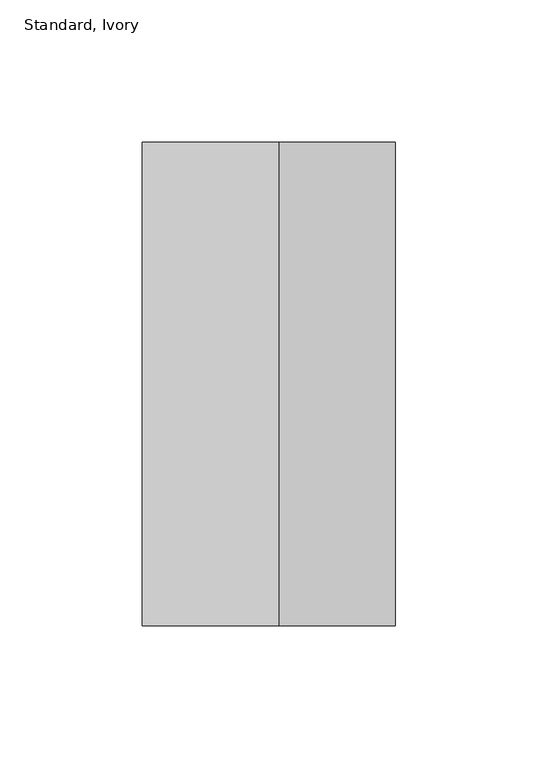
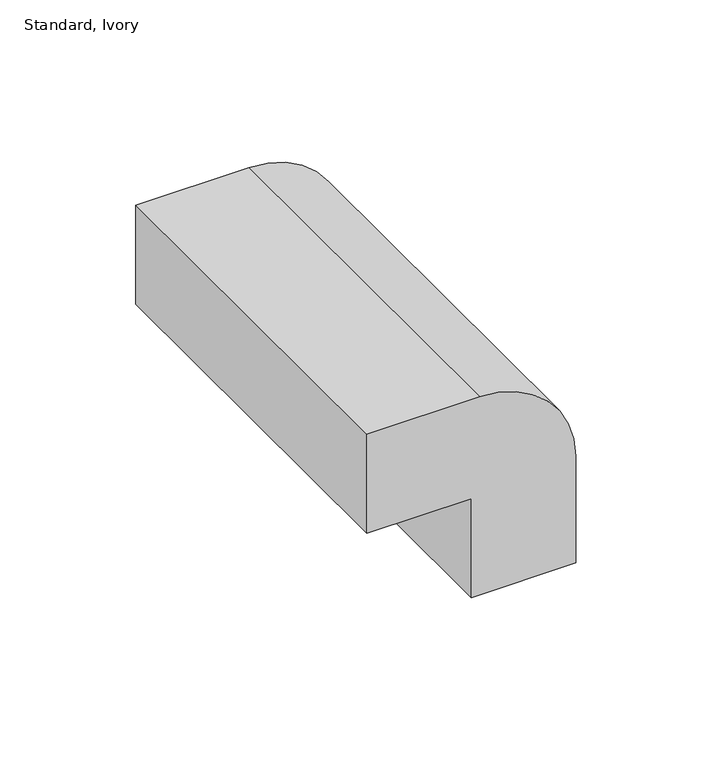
"""IFC4 building model written with IfcOpenShell, lengths in millimetres: proxy geometry, Elbow-5500_Series-Wiremold-External : Standard, Ivory."""

from ifc_helpers import new_model, si_unit, point, frame, frame_2d, origin, place, context, project, spatial, polyline, circle_curve, trimmed, segment, composite_curve, outline, extrude, source, transform, mapped, element, save


def standard_ivory_0c36f66c(model_context):
    return source(origin(), model_context, "Body", "SweptSolid", [
        extrude(outline(composite_curve([segment(polyline([(44.45, 3.556), (44.45, -44.45), (0.0, -44.45), (0.0, 0.0), (-44.45, 0.0), (-44.45, 44.45), (3.556, 44.45)]), True, "CONTINUOUS"), segment(trimmed(circle_curve(frame_2d((3.556, 3.556)), 40.894), [point((3.556, 44.45))], [point((44.45, 3.556))], False, "CARTESIAN"), True, "CONTINUOUS")], self_intersect=False)), frame((0.0, -84.9376, 0.0), z_axis=(0.0, 1.0, 0.0), x_axis=(0.0, 0.0, 1.0)), (0.0, 0.0, 1.0), 169.8752),
    ])


if __name__ == "__main__":
    model = new_model("IFC4")
    model_context = context("Model", 3, world=origin())
    ifc_project = project(units=[si_unit("LENGTHUNIT", "METRE", prefix="MILLI")], contexts=[model_context])
    site = spatial("IfcSite", under=ifc_project)
    building = spatial("IfcBuilding", under=site)
    placement = place(None, origin())
    standard_ivory_shape = standard_ivory_0c36f66c(model_context)
    element("IfcBuildingElementProxy", 1, Name="Elbow-5500_Series-Wiremold-External : Standard, Ivory", ObjectType="Elbow-5500_Series-Wiremold-External : Standard, Ivory", at=placement, inside=building, context=model_context, shape_type="MappedRepresentation", body=[
        mapped(standard_ivory_shape, transform((0.0, 0.0, 0.0), x_axis=(1.0, 0.0, 0.0), y_axis=(0.0, 1.0, 0.0), z_axis=(0.0, 0.0, 1.0))),
    ])
    save(model, "model.ifc")
